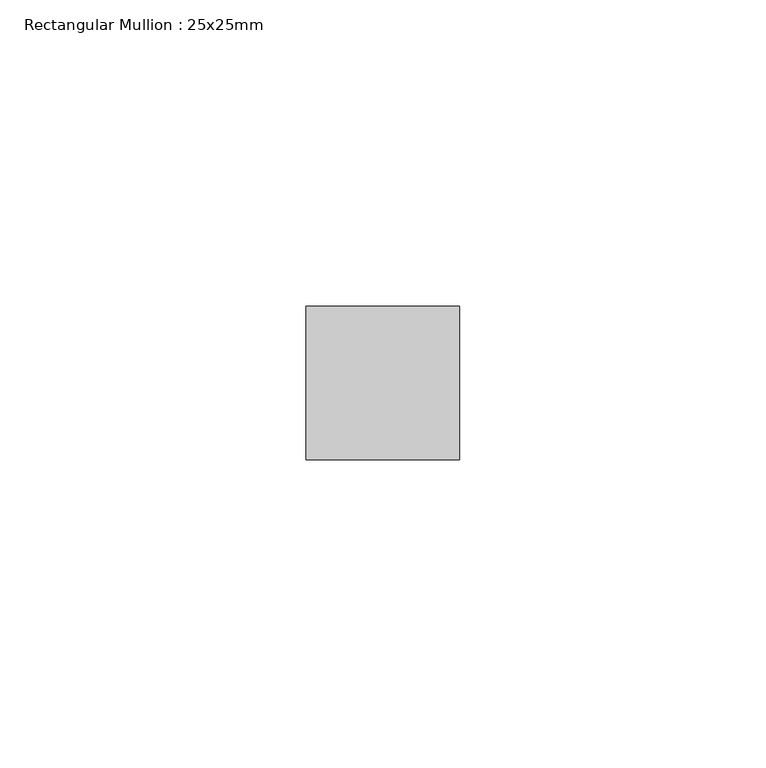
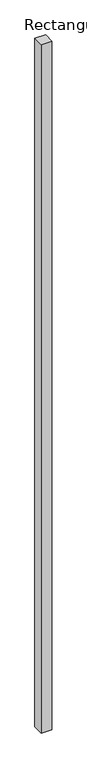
"""IFC4 building model written with IfcOpenShell, lengths in millimetres: member geometry, Rectangular Mullion : 25x25mm."""

from ifc_helpers import new_model, si_unit, frame, origin, place, context, project, spatial, polyline, outline, extrude, source, transform, mapped, element, save


def rectangular_mullion_25x25mm_b2cedffe(model_context):
    return source(origin(), model_context, "Body", "SweptSolid", [
        extrude(outline(polyline([(12.5, 0.5), (12.5, -24.5), (-12.5, -24.5), (-12.5, 0.5), (12.5, 0.5)])), frame((0.0, 0.0, -1690.0), z_axis=(0.0, 0.0, 1.0), x_axis=(1.0, 0.0, 0.0)), (0.0, 0.0, 1.0), 1690.0),
    ])


if __name__ == "__main__":
    model = new_model("IFC4")
    model_context = context("Model", 3, world=origin())
    ifc_project = project(units=[si_unit("LENGTHUNIT", "METRE", prefix="MILLI")], contexts=[model_context])
    site = spatial("IfcSite", under=ifc_project)
    building = spatial("IfcBuilding", under=site)
    placement = place(None, origin())
    rectangular_mullion_25x25mm_shape = rectangular_mullion_25x25mm_b2cedffe(model_context)
    element("IfcMember", 1, ObjectType="Rectangular Mullion : 25x25mm", at=placement, inside=building, context=model_context, shape_type="MappedRepresentation", body=[
        mapped(rectangular_mullion_25x25mm_shape, transform((0.0, 0.0, 0.0), x_axis=(1.0, 0.0, 0.0), y_axis=(0.0, 1.0, 0.0), z_axis=(0.0, 0.0, 1.0))),
    ])
    save(model, "model.ifc")
